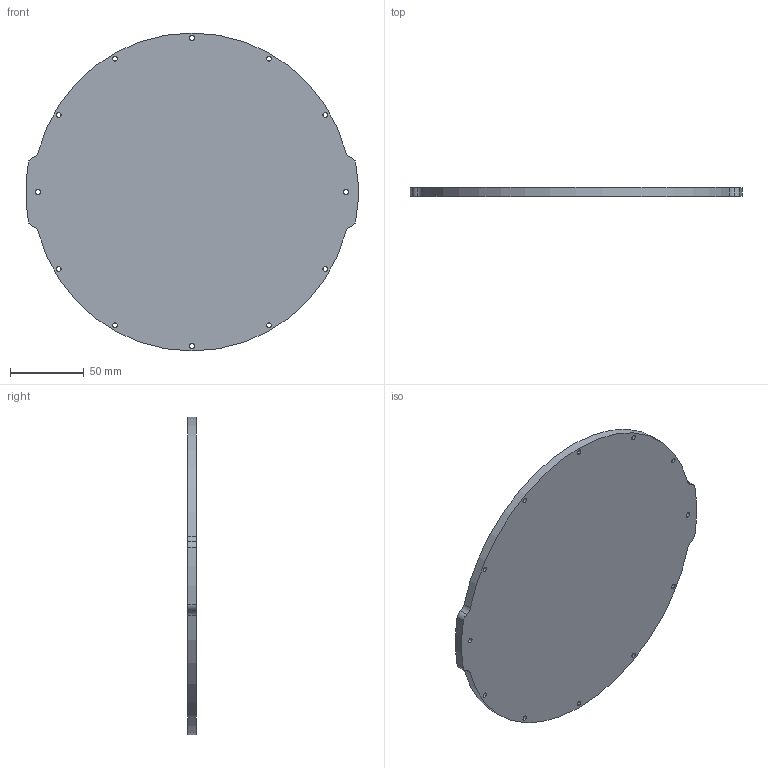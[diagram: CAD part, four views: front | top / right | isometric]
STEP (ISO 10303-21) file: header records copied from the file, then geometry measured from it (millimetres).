
FILE_DESCRIPTION (( 'STEP AP203' ), '1' );
FILE_NAME ('WTE8-M-END-CAP-R1.STEP', '2017-01-12T19:29:39', ( '' ), ( '' ), 'SwSTEP 2.0', 'SolidWorks 2014', '' );
FILE_SCHEMA (( 'CONFIG_CONTROL_DESIGN' ));
Length unit declared in the file: millimetre
Products named in the file (1): WTE8-M-END-CAP-R1
Bounding box: 225.52 x 6 x 215.9 mm (x, y, z)
Volume: 221875 mm3; surface area: 78843.5 mm2
Topology: 1 solids, 1 shells, 39 faces, 111 edges, 74 vertices
Faces by surface type: cylinder 37, plane 2
Entity records: 1444 total; most frequent: DIRECTION 265, CARTESIAN_POINT 225, ORIENTED_EDGE 222, AXIS2_PLACEMENT_3D 114, EDGE_CURVE 111, CIRCLE 74, VERTEX_POINT 74, EDGE_LOOP 63
